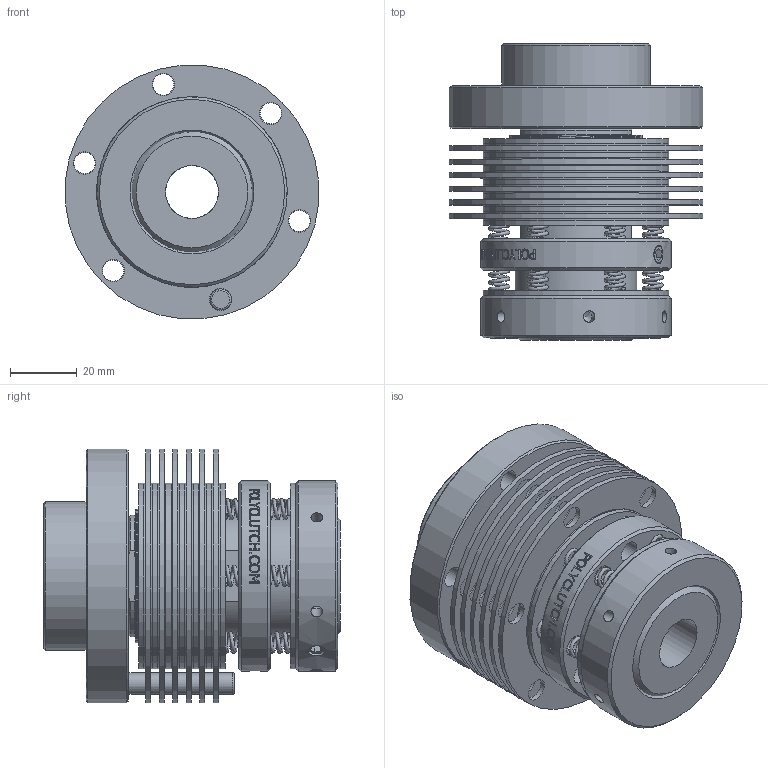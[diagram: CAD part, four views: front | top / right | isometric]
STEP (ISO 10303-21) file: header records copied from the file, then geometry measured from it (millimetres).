
FILE_DESCRIPTION (( 'STEP AP203' ), '1' );
FILE_NAME ('SAO48-10-ohne-Nut.STEP', '2021-09-16T07:27:04', ( '' ), ( '' ), 'SwSTEP 2.0', 'SolidWorks 2021', '' );
FILE_SCHEMA (( 'CONFIG_CONTROL_DESIGN' ));
Length unit declared in the file: millimetre
Products named in the file (1): SAO48-10-ohne-Nut
Bounding box: 75.92 x 88.9 x 75.92 mm (x, y, z)
Volume: 211320.9 mm3; surface area: 155046.9 mm2
Topology: 42 solids, 42 shells, 1041 faces, 2479 edges, 1633 vertices
Faces by surface type: plane 734, cylinder 159, bspline 106, cone 32, torus 10
Full cylindrical faces by diameter (mm): 3.454 x6, 5.055 x1, 5.41 x2, 6.35 x10, 6.528 x9, 6.731 x36, 15.875 x1, 15.888 x1, 19.05 x2, 35.535 x1, 36.5 x2, 36.576 x12, 37.211 x1, 38.1 x6, 40.005 x1, 44.704 x1, 55.55 x20, 57.074 x2, 76.2 x7
Entity records: 61345 total; most frequent: CARTESIAN_POINT 38015, ORIENTED_EDGE 4588, DIRECTION 4415, EDGE_CURVE 2294, VERTEX_POINT 1612, AXIS2_PLACEMENT_3D 1508, EDGE_LOOP 1490, LINE 1399
